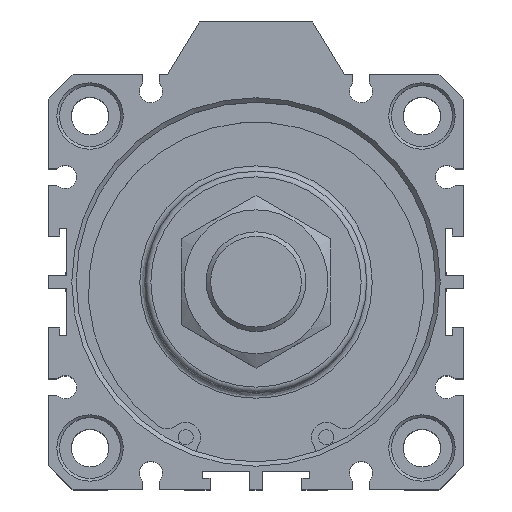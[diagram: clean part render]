
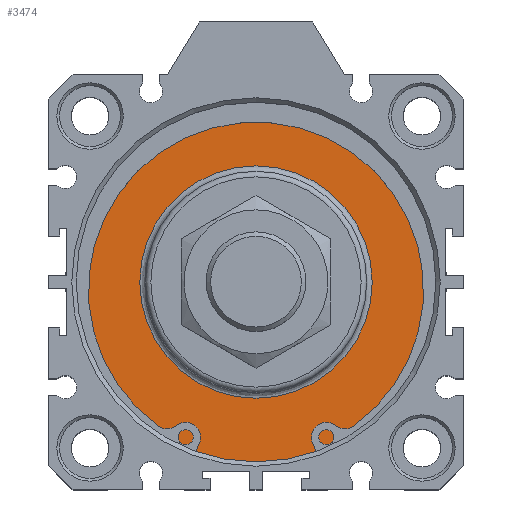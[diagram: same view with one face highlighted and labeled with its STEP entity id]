
A CAD part, top view. The second image highlights one B-rep face of the part: STEP entity #3474.
In plain terms, the highlighted planar face has unit normal (0, 0, 1).
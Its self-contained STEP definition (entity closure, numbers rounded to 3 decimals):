
#3423=CARTESIAN_POINT('',(2.99,22.555,47.3));
#3424=VERTEX_POINT('',#3423);
#3425=CARTESIAN_POINT('',(2.99,1.555,47.3));
#3426=DIRECTION('',(0.0,0.0,1.0));
#3427=DIRECTION('',(0.0,-1.0,0.0));
#3428=AXIS2_PLACEMENT_3D('',#3425,#3426,#3427);
#3429=CIRCLE('',#3428,21.0);
#3430=EDGE_CURVE('',#3424,#3424,#3429,.T.);
#3455=CARTESIAN_POINT('',(2.99,27.805,47.3));
#3456=DIRECTION('',(0.0,0.0,1.0));
#3457=DIRECTION('',(1.0,0.0,0.0));
#3458=AXIS2_PLACEMENT_3D('',#3455,#3456,#3457);
#3459=PLANE('',#3458);
#3460=CARTESIAN_POINT('',(2.99,34.055,47.3));
#3461=VERTEX_POINT('',#3460);
#3462=CARTESIAN_POINT('',(2.99,1.555,47.3));
#3463=DIRECTION('',(0.0,0.0,-1.0));
#3464=DIRECTION('',(0.0,1.0,0.0));
#3465=AXIS2_PLACEMENT_3D('',#3462,#3463,#3464);
#3466=CIRCLE('',#3465,32.5);
#3467=EDGE_CURVE('',#3461,#3461,#3466,.T.);
#3468=ORIENTED_EDGE('',*,*,#3467,.F.);
#3469=EDGE_LOOP('',(#3468));
#3470=FACE_OUTER_BOUND('',#3469,.T.);
#3471=ORIENTED_EDGE('',*,*,#3430,.F.);
#3472=EDGE_LOOP('',(#3471));
#3473=FACE_BOUND('',#3472,.T.);
#3474=ADVANCED_FACE('',(#3470,#3473),#3459,.T.);
